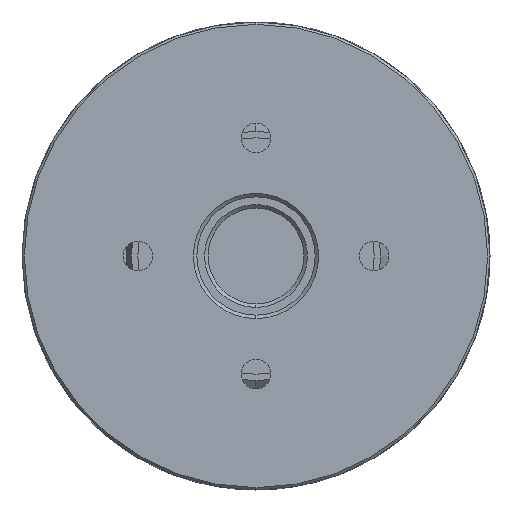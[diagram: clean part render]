
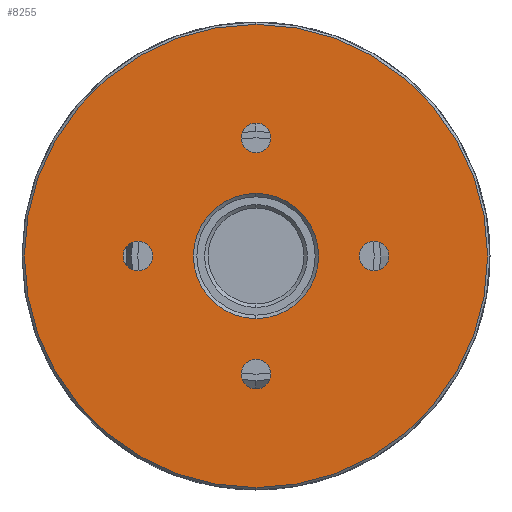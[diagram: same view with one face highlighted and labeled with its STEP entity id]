
A CAD part, left-side view. The second image highlights one B-rep face of the part: STEP entity #8255.
In plain terms, the highlighted planar face has unit normal (-1, 0, 0).
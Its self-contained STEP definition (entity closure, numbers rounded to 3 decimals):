
#94 = CARTESIAN_POINT ( 'NONE',  ( 0., 0., -5.3 ) ) ;
#150 = CARTESIAN_POINT ( 'NONE',  ( 0., 0., -11.25 ) ) ;
#224 = ORIENTED_EDGE ( 'NONE', *, *, #4791, .F. ) ;
#298 = DIRECTION ( 'NONE',  ( -1., 0., 0. ) ) ;
#557 = DIRECTION ( 'NONE',  ( -1., 0., 0. ) ) ;
#600 = DIRECTION ( 'NONE',  ( -1., 0., 0. ) ) ;
#601 = EDGE_CURVE ( 'NONE', #6878, #6660, #5453, .T. ) ;
#691 = CARTESIAN_POINT ( 'NONE',  ( 0., 0., 10. ) ) ;
#699 = CARTESIAN_POINT ( 'NONE',  ( 0., 0., 0. ) ) ;
#852 = DIRECTION ( 'NONE',  ( -1., 0., 0. ) ) ;
#947 = FACE_BOUND ( 'NONE', #9019, .T. ) ;
#991 = CARTESIAN_POINT ( 'NONE',  ( 0., 0., -19.6 ) ) ;
#1130 = DIRECTION ( 'NONE',  ( 0., 0., 1. ) ) ;
#1133 = DIRECTION ( 'NONE',  ( 0., 0., 1. ) ) ;
#1148 = CARTESIAN_POINT ( 'NONE',  ( 0., 10., 1.25 ) ) ;
#1175 = DIRECTION ( 'NONE',  ( 0., 0., -1. ) ) ;
#1213 = EDGE_CURVE ( 'NONE', #4800, #3046, #2008, .T. ) ;
#1217 = VERTEX_POINT ( 'NONE', #8144 ) ;
#1223 = CARTESIAN_POINT ( 'NONE',  ( 0., 0., 0. ) ) ;
#1297 = EDGE_CURVE ( 'NONE', #3046, #4800, #2172, .T. ) ;
#1335 = EDGE_LOOP ( 'NONE', ( #5391, #7139 ) ) ;
#1376 = ORIENTED_EDGE ( 'NONE', *, *, #4436, .F. ) ;
#1702 = DIRECTION ( 'NONE',  ( -1., 0., 0. ) ) ;
#1720 = AXIS2_PLACEMENT_3D ( 'NONE', #699, #2199, #8496 ) ;
#1729 = AXIS2_PLACEMENT_3D ( 'NONE', #4982, #852, #2926 ) ;
#1747 = DIRECTION ( 'NONE',  ( 0., 0., 1. ) ) ;
#1998 = CIRCLE ( 'NONE', #4104, 1.25 ) ;
#2008 = CIRCLE ( 'NONE', #5463, 5.3 ) ;
#2172 = CIRCLE ( 'NONE', #3830, 5.3 ) ;
#2194 = EDGE_CURVE ( 'NONE', #1217, #4567, #2434, .T. ) ;
#2199 = DIRECTION ( 'NONE',  ( 1., 0., 0. ) ) ;
#2254 = EDGE_CURVE ( 'NONE', #4351, #3542, #7646, .T. ) ;
#2318 = ORIENTED_EDGE ( 'NONE', *, *, #1297, .F. ) ;
#2384 = EDGE_CURVE ( 'NONE', #7296, #6065, #3632, .T. ) ;
#2402 = FACE_BOUND ( 'NONE', #6266, .T. ) ;
#2434 = CIRCLE ( 'NONE', #4979, 1.25 ) ;
#2448 = FACE_OUTER_BOUND ( 'NONE', #8120, .T. ) ;
#2478 = CARTESIAN_POINT ( 'NONE',  ( 0., 10., -1.25 ) ) ;
#2926 = DIRECTION ( 'NONE',  ( 0., 0., 1. ) ) ;
#3046 = VERTEX_POINT ( 'NONE', #94 ) ;
#3153 = CARTESIAN_POINT ( 'NONE',  ( 0., -10., 0. ) ) ;
#3215 = CARTESIAN_POINT ( 'NONE',  ( 0., 0., 11.25 ) ) ;
#3294 = CARTESIAN_POINT ( 'NONE',  ( 0., -10., 1.25 ) ) ;
#3303 = AXIS2_PLACEMENT_3D ( 'NONE', #691, #557, #9185 ) ;
#3326 = EDGE_LOOP ( 'NONE', ( #4305, #6009 ) ) ;
#3347 = CIRCLE ( 'NONE', #4411, 1.25 ) ;
#3382 = ORIENTED_EDGE ( 'NONE', *, *, #4775, .F. ) ;
#3424 = DIRECTION ( 'NONE',  ( -1., 0., 0. ) ) ;
#3438 = ORIENTED_EDGE ( 'NONE', *, *, #8178, .F. ) ;
#3456 = CARTESIAN_POINT ( 'NONE',  ( 0., 0., 8.75 ) ) ;
#3542 = VERTEX_POINT ( 'NONE', #5174 ) ;
#3562 = DIRECTION ( 'NONE',  ( 0., 0., 1. ) ) ;
#3632 = CIRCLE ( 'NONE', #6160, 1.25 ) ;
#3794 = AXIS2_PLACEMENT_3D ( 'NONE', #4320, #4274, #7704 ) ;
#3815 = FACE_BOUND ( 'NONE', #3326, .T. ) ;
#3830 = AXIS2_PLACEMENT_3D ( 'NONE', #1223, #4092, #6365 ) ;
#3849 = DIRECTION ( 'NONE',  ( -1., 0., 0. ) ) ;
#3958 = AXIS2_PLACEMENT_3D ( 'NONE', #4792, #6268, #1175 ) ;
#4074 = DIRECTION ( 'NONE',  ( 0., 0., 1. ) ) ;
#4087 = CARTESIAN_POINT ( 'NONE',  ( 0., 0., -10. ) ) ;
#4092 = DIRECTION ( 'NONE',  ( -1., 0., 0. ) ) ;
#4104 = AXIS2_PLACEMENT_3D ( 'NONE', #3153, #1702, #1130 ) ;
#4274 = DIRECTION ( 'NONE',  ( 1., 0., 0. ) ) ;
#4305 = ORIENTED_EDGE ( 'NONE', *, *, #2254, .F. ) ;
#4320 = CARTESIAN_POINT ( 'NONE',  ( 0., 0., 0. ) ) ;
#4351 = VERTEX_POINT ( 'NONE', #3294 ) ;
#4411 = AXIS2_PLACEMENT_3D ( 'NONE', #8230, #298, #1747 ) ;
#4436 = EDGE_CURVE ( 'NONE', #6660, #6878, #8711, .T. ) ;
#4567 = VERTEX_POINT ( 'NONE', #150 ) ;
#4604 = DIRECTION ( 'NONE',  ( 0., 0., 1. ) ) ;
#4666 = CIRCLE ( 'NONE', #3303, 1.25 ) ;
#4775 = EDGE_CURVE ( 'NONE', #4567, #1217, #5852, .T. ) ;
#4791 = EDGE_CURVE ( 'NONE', #5770, #7807, #4666, .T. ) ;
#4792 = CARTESIAN_POINT ( 'NONE',  ( 0., 19.8, 0. ) ) ;
#4800 = VERTEX_POINT ( 'NONE', #4912 ) ;
#4844 = CARTESIAN_POINT ( 'NONE',  ( 0., 0., 19.6 ) ) ;
#4912 = CARTESIAN_POINT ( 'NONE',  ( 0., 0., 5.3 ) ) ;
#4979 = AXIS2_PLACEMENT_3D ( 'NONE', #4087, #3424, #8504 ) ;
#4982 = CARTESIAN_POINT ( 'NONE',  ( 0., 10., 0. ) ) ;
#5174 = CARTESIAN_POINT ( 'NONE',  ( 0., -10., -1.25 ) ) ;
#5217 = FACE_BOUND ( 'NONE', #5337, .T. ) ;
#5337 = EDGE_LOOP ( 'NONE', ( #5822, #2318 ) ) ;
#5391 = ORIENTED_EDGE ( 'NONE', *, *, #6811, .F. ) ;
#5453 = CIRCLE ( 'NONE', #1720, 19.6 ) ;
#5463 = AXIS2_PLACEMENT_3D ( 'NONE', #6793, #7534, #1133 ) ;
#5770 = VERTEX_POINT ( 'NONE', #3456 ) ;
#5772 = CIRCLE ( 'NONE', #1729, 1.25 ) ;
#5822 = ORIENTED_EDGE ( 'NONE', *, *, #1213, .F. ) ;
#5852 = CIRCLE ( 'NONE', #8509, 1.25 ) ;
#6009 = ORIENTED_EDGE ( 'NONE', *, *, #8150, .F. ) ;
#6065 = VERTEX_POINT ( 'NONE', #1148 ) ;
#6131 = PLANE ( 'NONE',  #3958 ) ;
#6145 = ORIENTED_EDGE ( 'NONE', *, *, #2194, .F. ) ;
#6160 = AXIS2_PLACEMENT_3D ( 'NONE', #8219, #3849, #4604 ) ;
#6163 = AXIS2_PLACEMENT_3D ( 'NONE', #8557, #7902, #3562 ) ;
#6266 = EDGE_LOOP ( 'NONE', ( #6145, #3382 ) ) ;
#6268 = DIRECTION ( 'NONE',  ( 1., 0., 0. ) ) ;
#6365 = DIRECTION ( 'NONE',  ( 0., 0., 1. ) ) ;
#6660 = VERTEX_POINT ( 'NONE', #4844 ) ;
#6793 = CARTESIAN_POINT ( 'NONE',  ( 0., 0., 0. ) ) ;
#6811 = EDGE_CURVE ( 'NONE', #6065, #7296, #5772, .T. ) ;
#6878 = VERTEX_POINT ( 'NONE', #991 ) ;
#7139 = ORIENTED_EDGE ( 'NONE', *, *, #2384, .F. ) ;
#7296 = VERTEX_POINT ( 'NONE', #2478 ) ;
#7439 = ORIENTED_EDGE ( 'NONE', *, *, #601, .F. ) ;
#7534 = DIRECTION ( 'NONE',  ( -1., 0., 0. ) ) ;
#7646 = CIRCLE ( 'NONE', #6163, 1.25 ) ;
#7704 = DIRECTION ( 'NONE',  ( 0., 0., -1. ) ) ;
#7786 = CARTESIAN_POINT ( 'NONE',  ( 0., 0., -10. ) ) ;
#7807 = VERTEX_POINT ( 'NONE', #3215 ) ;
#7902 = DIRECTION ( 'NONE',  ( -1., 0., 0. ) ) ;
#8120 = EDGE_LOOP ( 'NONE', ( #7439, #1376 ) ) ;
#8144 = CARTESIAN_POINT ( 'NONE',  ( 0., 0., -8.75 ) ) ;
#8150 = EDGE_CURVE ( 'NONE', #3542, #4351, #1998, .T. ) ;
#8178 = EDGE_CURVE ( 'NONE', #7807, #5770, #3347, .T. ) ;
#8219 = CARTESIAN_POINT ( 'NONE',  ( 0., 10., 0. ) ) ;
#8230 = CARTESIAN_POINT ( 'NONE',  ( 0., 0., 10. ) ) ;
#8255 = ADVANCED_FACE ( 'NONE', ( #5217, #947, #3815, #2402, #8836, #2448 ), #6131, .F. ) ;
#8496 = DIRECTION ( 'NONE',  ( 0., 0., -1. ) ) ;
#8504 = DIRECTION ( 'NONE',  ( 0., 0., 1. ) ) ;
#8509 = AXIS2_PLACEMENT_3D ( 'NONE', #7786, #600, #4074 ) ;
#8557 = CARTESIAN_POINT ( 'NONE',  ( 0., -10., 0. ) ) ;
#8711 = CIRCLE ( 'NONE', #3794, 19.6 ) ;
#8836 = FACE_BOUND ( 'NONE', #1335, .T. ) ;
#9019 = EDGE_LOOP ( 'NONE', ( #3438, #224 ) ) ;
#9185 = DIRECTION ( 'NONE',  ( 0., 0., 1. ) ) ;
